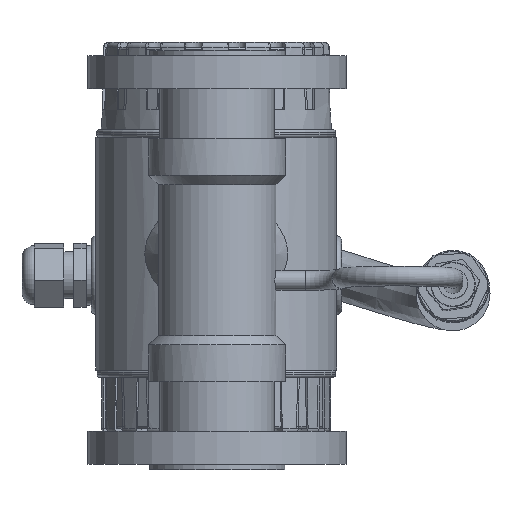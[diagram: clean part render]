
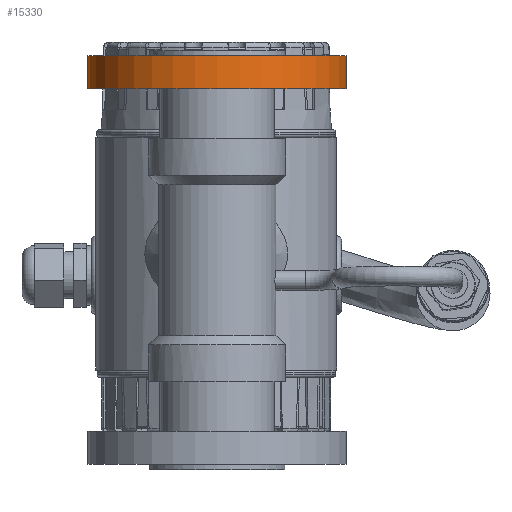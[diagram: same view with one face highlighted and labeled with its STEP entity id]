
A CAD part, front view. The second image highlights one B-rep face of the part: STEP entity #15330.
In plain terms, the highlighted cylindrical face has radius 52.5 mm (diameter 105 mm), a full revolution.
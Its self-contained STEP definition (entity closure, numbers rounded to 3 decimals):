
#2221=LINE('',#30024,#3350);
#3350=VECTOR('',#21502,52.5);
#3663=CYLINDRICAL_SURFACE('',#17073,52.5);
#4508=FACE_OUTER_BOUND('',#5489,.T.);
#5489=EDGE_LOOP('',(#13974,#13975,#13976,#13977));
#6252=CIRCLE('',#17074,52.5);
#6253=CIRCLE('',#17075,52.5);
#7594=VERTEX_POINT('',#30021);
#7595=VERTEX_POINT('',#30023);
#9747=EDGE_CURVE('',#7594,#7594,#6252,.T.);
#9748=EDGE_CURVE('',#7594,#7595,#2221,.T.);
#9749=EDGE_CURVE('',#7595,#7595,#6253,.T.);
#13974=ORIENTED_EDGE('',*,*,#9747,.F.);
#13975=ORIENTED_EDGE('',*,*,#9748,.T.);
#13976=ORIENTED_EDGE('',*,*,#9749,.F.);
#13977=ORIENTED_EDGE('',*,*,#9748,.F.);
#15330=ADVANCED_FACE('',(#4508),#3663,.T.);
#17073=AXIS2_PLACEMENT_3D('',#30020,#21498,#21499);
#17074=AXIS2_PLACEMENT_3D('',#30022,#21500,#21501);
#17075=AXIS2_PLACEMENT_3D('',#30025,#21503,#21504);
#21498=DIRECTION('center_axis',(0.,0.,1.));
#21499=DIRECTION('ref_axis',(-1.,0.,0.));
#21500=DIRECTION('center_axis',(0.,0.,
1.));
#21501=DIRECTION('ref_axis',(-1.,0.,0.));
#21502=DIRECTION('',(0.,0.,-1.));
#21503=DIRECTION('center_axis',(0.,0.,
-1.));
#21504=DIRECTION('ref_axis',(-1.,0.,0.));
#30020=CARTESIAN_POINT('Origin',(-376.699,203.903,289.874));
#30021=CARTESIAN_POINT('',(-324.199,203.902,303.333));
#30022=CARTESIAN_POINT('Origin',(-376.699,203.902,303.333));
#30023=CARTESIAN_POINT('',(-324.199,203.903,289.874));
#30024=CARTESIAN_POINT('',(-324.199,203.903,289.874));
#30025=CARTESIAN_POINT('Origin',(-376.699,203.903,289.874));
